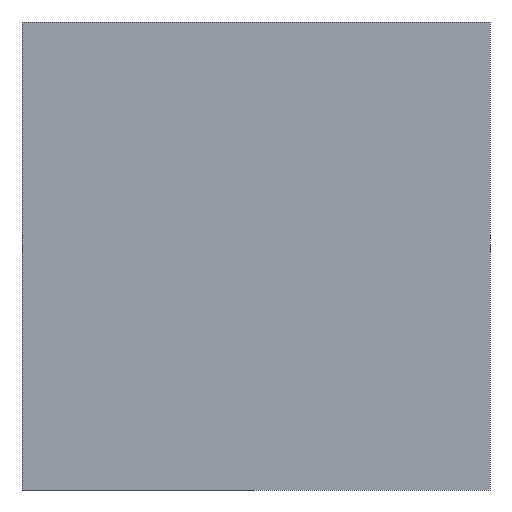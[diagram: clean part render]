
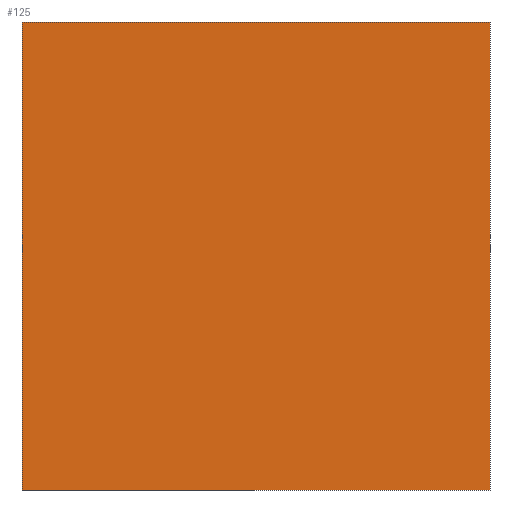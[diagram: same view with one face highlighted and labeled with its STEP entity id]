
A CAD part, left-side view. The second image highlights one B-rep face of the part: STEP entity #125.
In plain terms, the highlighted planar face has unit normal (-1, 0, 0).
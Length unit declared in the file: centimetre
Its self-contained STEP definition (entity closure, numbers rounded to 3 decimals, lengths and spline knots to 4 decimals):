
#54 = ORIENTED_EDGE ( 'NONE', *, *, #679, .T. ) ;
#96 = DIRECTION ( 'NONE',  ( 0., 0., -1. ) ) ;
#125 = ADVANCED_FACE ( 'NONE', ( #375 ), #163, .F. ) ;
#134 = CARTESIAN_POINT ( 'NONE',  ( 0., 1000., 0. ) ) ;
#137 = VECTOR ( 'NONE', #346, 100. ) ;
#147 = ORIENTED_EDGE ( 'NONE', *, *, #568, .T. ) ;
#159 = CARTESIAN_POINT ( 'NONE',  ( 0., 1000., 1000. ) ) ;
#163 = PLANE ( 'NONE',  #334 ) ;
#169 = ORIENTED_EDGE ( 'NONE', *, *, #457, .F. ) ;
#235 = EDGE_LOOP ( 'NONE', ( #54, #169, #680, #147 ) ) ;
#249 = CARTESIAN_POINT ( 'NONE',  ( 0., 1000., 1000. ) ) ;
#295 = CARTESIAN_POINT ( 'NONE',  ( 0., 1000., 1000. ) ) ;
#334 = AXIS2_PLACEMENT_3D ( 'NONE', #159, #596, #96 ) ;
#338 = CARTESIAN_POINT ( 'NONE',  ( 0., 0., 1000. ) ) ;
#340 = DIRECTION ( 'NONE',  ( 0., 0., -1. ) ) ;
#346 = DIRECTION ( 'NONE',  ( 0., -1., 0. ) ) ;
#362 = EDGE_CURVE ( 'NONE', #636, #537, #366, .T. ) ;
#366 = LINE ( 'NONE', #550, #576 ) ;
#367 = VECTOR ( 'NONE', #340, 100. ) ;
#375 = FACE_OUTER_BOUND ( 'NONE', #235, .T. ) ;
#421 = DIRECTION ( 'NONE',  ( 0., -1., 0. ) ) ;
#442 = CARTESIAN_POINT ( 'NONE',  ( 0., 0., 1000. ) ) ;
#457 = EDGE_CURVE ( 'NONE', #537, #521, #501, .T. ) ;
#471 = DIRECTION ( 'NONE',  ( 0., 0., -1. ) ) ;
#501 = LINE ( 'NONE', #338, #367 ) ;
#521 = VERTEX_POINT ( 'NONE', #673 ) ;
#537 = VERTEX_POINT ( 'NONE', #442 ) ;
#549 = VERTEX_POINT ( 'NONE', #565 ) ;
#550 = CARTESIAN_POINT ( 'NONE',  ( 0., 1000., 1000. ) ) ;
#565 = CARTESIAN_POINT ( 'NONE',  ( 0., 1000., 0. ) ) ;
#568 = EDGE_CURVE ( 'NONE', #636, #549, #579, .T. ) ;
#576 = VECTOR ( 'NONE', #421, 100. ) ;
#579 = LINE ( 'NONE', #295, #684 ) ;
#596 = DIRECTION ( 'NONE',  ( 1., 0., 0. ) ) ;
#629 = LINE ( 'NONE', #134, #137 ) ;
#636 = VERTEX_POINT ( 'NONE', #249 ) ;
#673 = CARTESIAN_POINT ( 'NONE',  ( 0., 0., 0. ) ) ;
#679 = EDGE_CURVE ( 'NONE', #549, #521, #629, .T. ) ;
#680 = ORIENTED_EDGE ( 'NONE', *, *, #362, .F. ) ;
#684 = VECTOR ( 'NONE', #471, 100. ) ;
